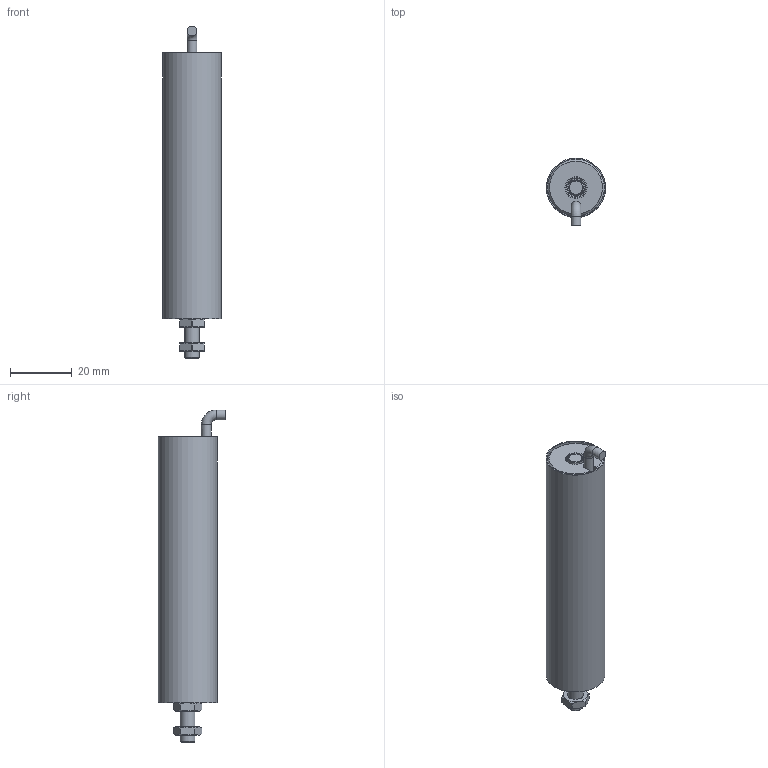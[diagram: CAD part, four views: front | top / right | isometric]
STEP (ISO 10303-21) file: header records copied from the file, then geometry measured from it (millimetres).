
FILE_DESCRIPTION(/* description */ ('ILPS-19Z-XXX-A-00-ZZ shrinkwrapped'),/* implementation_level */ '2;1');
FILE_NAME(/* name */ 'ILPS-19Z-075-A-00-ZZ shrinkwrapped.stp',/* time_stamp */ '2026-08-13T16:06:31-04:00',/* author */ ('Cameron'),/* organization */ ('hgsi'),/* preprocessor_version */ 'ST-DEVELOPER v20.1',/* originating_system */ 'Autodesk Inventor 2027',/* authorisation */ '');
FILE_SCHEMA (('AUTOMOTIVE_DESIGN { 1 0 10303 214 3 1 1 }','TECHNICAL_DATA_PACKAGING'));
Length unit declared in the file: inch
Products named in the file (4): ILPS-19Z-075-A-00-ZZ shrinkwrapped; ILPS-19Z-075-A-00-ZZ-A shrinkwrapped body; ILPS-19Z-075 Rod; 8200-0360
Assembly tree (4 placements, depth 2):
  ILPS-19Z-075-A-00-ZZ shrinkwrapped
    ILPS-19Z-075-A-00-ZZ-A shrinkwrapped body
    ILPS-19Z-075 Rod
    8200-0360  x2
Bounding box: 19.05 x 21.89 x 107.25 mm (x, y, z)
Volume: 5442 mm3; surface area: 19406.7 mm2
Topology: 6 solids, 6 shells, 95 faces, 226 edges, 149 vertices
Faces by surface type: cylinder 41, plane 33, cone 16, bspline 4, torus 1
Full cylindrical faces by diameter (mm): 3.175 x2, 3.961 x2, 4.75 x1, 4.775 x1, 5 x4, 5.08 x1, 5.944 x2, 5.994 x1, 7.061 x1, 7.137 x2, 18.364 x1, 18.415 x1, 19.05 x1
Entity records: 2811 total; most frequent: CARTESIAN_POINT 1138, DIRECTION 304, ORIENTED_EDGE 302, EDGE_CURVE 151, AXIS2_PLACEMENT_3D 127, VERTEX_POINT 99, EDGE_LOOP 82, FACE_OUTER_BOUND 68
